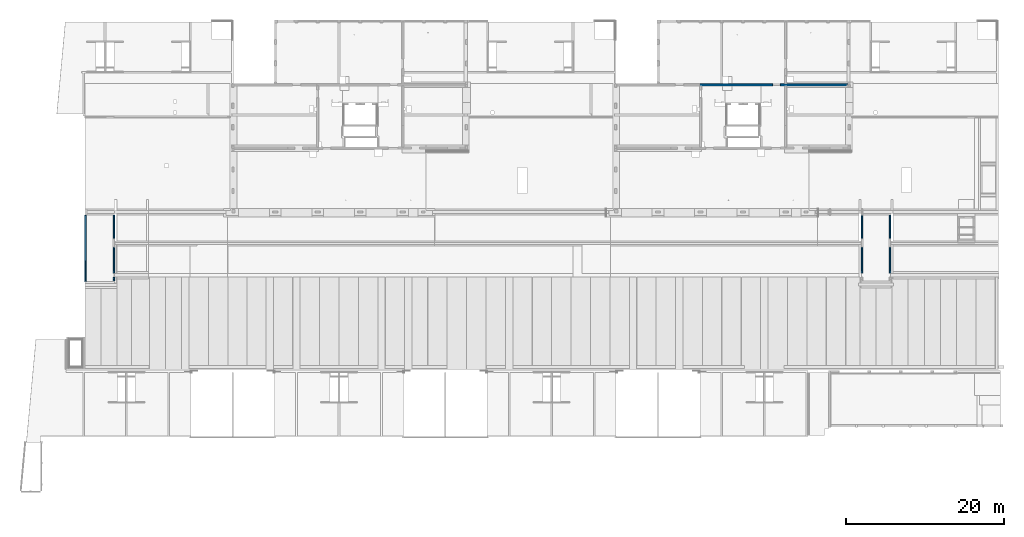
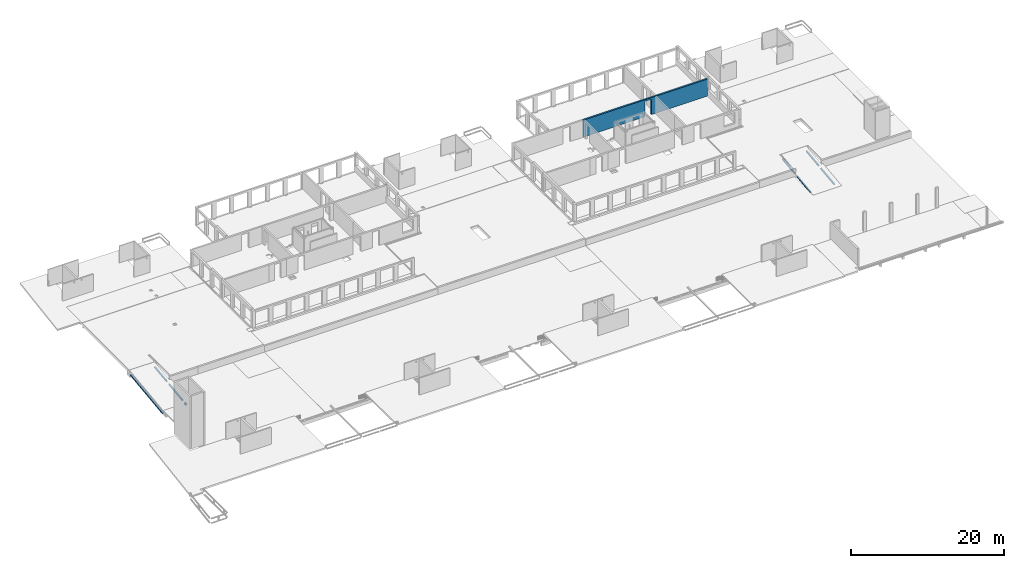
# One storey, part 35 of 36: 9 walls.
"""IFC2X3 building model written with IfcOpenShell, lengths in millimetres."""

from ifc_helpers import new_model, entity, si_unit, converted_unit, derived_unit, direction, frame, origin, place, context, subcontext, project, spatial, faceted_brep, material, layer, layer_set, type_object, element, save


model = new_model("IFC2X3")

# Units and contexts
model_context = context("Model", 3, precision=0.01, world=origin(), true_north=direction((6.12303176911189e-17, 1.0)))
body_context = subcontext(model_context, "Body", "Model", "MODEL_VIEW")
ifc_project = project(units=[si_unit("LENGTHUNIT", "METRE", prefix="MILLI"), si_unit("AREAUNIT", "SQUARE_METRE"), si_unit("VOLUMEUNIT", "CUBIC_METRE"), converted_unit("PLANEANGLEUNIT", "DEGREE", entity("IfcRatioMeasure", 0.0174532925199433), si_unit("PLANEANGLEUNIT", "RADIAN"), dimensions=[0, 0, 0, 0, 0, 0, 0]), si_unit("MASSUNIT", "GRAM", prefix="KILO"), derived_unit("MASSDENSITYUNIT", [(si_unit("MASSUNIT", "GRAM", prefix="KILO"), 1), (si_unit("LENGTHUNIT", "METRE"), -3)]), si_unit("TIMEUNIT", "SECOND"), si_unit("FREQUENCYUNIT", "HERTZ"), si_unit("THERMODYNAMICTEMPERATUREUNIT", "DEGREE_CELSIUS"), derived_unit("THERMALTRANSMITTANCEUNIT", [(si_unit("MASSUNIT", "GRAM", prefix="KILO"), 1), (si_unit("THERMODYNAMICTEMPERATUREUNIT", "KELVIN"), -1), (si_unit("TIMEUNIT", "SECOND"), -3)]), derived_unit("VOLUMETRICFLOWRATEUNIT", [(si_unit("LENGTHUNIT", "METRE"), 3), (si_unit("TIMEUNIT", "SECOND"), -1)]), si_unit("ELECTRICCURRENTUNIT", "AMPERE"), si_unit("ELECTRICVOLTAGEUNIT", "VOLT"), si_unit("POWERUNIT", "WATT"), si_unit("FORCEUNIT", "NEWTON", prefix="KILO"), si_unit("ILLUMINANCEUNIT", "LUX"), si_unit("LUMINOUSFLUXUNIT", "LUMEN"), si_unit("LUMINOUSINTENSITYUNIT", "CANDELA"), derived_unit("USERDEFINED", [(si_unit("MASSUNIT", "GRAM", prefix="KILO"), -1), (si_unit("LENGTHUNIT", "METRE"), -2), (si_unit("TIMEUNIT", "SECOND"), 3), (si_unit("LUMINOUSFLUXUNIT", "LUMEN"), 1)]), derived_unit("LINEARVELOCITYUNIT", [(si_unit("LENGTHUNIT", "METRE"), 1), (si_unit("TIMEUNIT", "SECOND"), -1)]), si_unit("PRESSUREUNIT", "PASCAL"), derived_unit("USERDEFINED", [(si_unit("LENGTHUNIT", "METRE"), -2), (si_unit("MASSUNIT", "GRAM", prefix="KILO"), 1), (si_unit("TIMEUNIT", "SECOND"), -2)])], contexts=[model_context])

# Site, building, storey
site_placement = place(None, origin())
site = spatial("IfcSite", under=ifc_project, at=site_placement, Name="Default", CompositionType="ELEMENT")
building_placement = place(site_placement, origin())
building = spatial("IfcBuilding", under=site, at=building_placement, Name="niet gebruiken", CompositionType="ELEMENT")
storey_placement = place(building_placement, frame((0.0, 0.0, 12600.0)))
storey = spatial("IfcBuildingStorey", under=building, at=storey_placement, Name="04 vierde verdieping", CompositionType="ELEMENT", Elevation=12600.0)

# Walls
ifc_material_1 = material(Name="NLRS_f2_beton ihwg")
ifc_layer = layer(ifc_material_1, 250.0)
ifc_layer_set = layer_set([ifc_layer], Name="Basic Wall:NLRS_22.21_WA_beton ihwg d=250_gen")
wall_type_1 = type_object("IfcWallType", Name="Basic Wall:NLRS_22.21_WA_beton ihwg d=250_gen", PredefinedType="STANDARD", material=ifc_layer_set)
wall_1_placement = place(storey_placement, frame((86275.0, 45031.0, -90.0)))
element("IfcWall", 1, at=wall_1_placement, inside=storey, type_object=wall_type_1, Name="Basic Wall:NLRS_22.21_WA_beton ihwg d=250_gen", ObjectType="Basic Wall:NLRS_22.21_WA_beton ihwg d=250_gen", context=body_context, shape_type="Brep", body=[
    faceted_brep([(18715.0, -125.0, 0.0), (18715.0, -125.0, 1000.0), (18695.0, -125.0, 1000.0), (18695.0, -125.0, 2720.0), (11050.0, -125.0, 2720.0), (10800.0, -125.0, 2720.0), (250.0, -125.0, 2720.0), (0.0, -125.0, 2720.0), (0.0, -125.0, 0.0), (250.0, -125.0, 0.0), (9270.0, -125.0, 0.0), (9270.0, -125.0, 2470.0), (10276.0, -125.0, 2470.0), (10276.0, -125.0, 0.0), (10800.0, -125.0, 0.0), (11050.0, -125.0, 0.0), (0.0, 125.0, 2720.0), (10800.0, 125.0, 2720.0), (11050.0, 125.0, 2720.0), (18835.0, 125.0, 2720.0), (18835.0, 125.0, 1000.0), (18715.0, 125.0, 1000.0), (18715.0, 125.0, 0.0), (11050.0, 125.0, 0.0), (10800.0, 125.0, 0.0), (10276.0, 125.0, 0.0), (10276.0, 125.0, 2470.0), (9270.0, 125.0, 2470.0), (9270.0, 125.0, 0.0), (0.0, 125.0, 0.0), (18695.0, 15.0, 2720.0), (18835.0, 15.0, 2720.0), (18835.0, 15.0, 1000.0), (18715.0, 15.0, 1000.0), (18695.0, 15.0, 1000.0)], [[[0, 1, 2, 3, 4, 5, 6, 7, 8, 9, 10, 11, 12, 13, 14, 15]], [[16, 17, 18, 19, 20, 21, 22, 23, 24, 25, 26, 27, 28, 29]], [[19, 18, 17, 16, 7, 6, 5, 4, 3, 30, 31]], [[21, 20, 32, 33]], [[1, 0, 22, 21, 33]], [[20, 19, 31, 32]], [[8, 7, 16, 29]], [[22, 0, 15, 14, 13, 25, 24, 23]], [[27, 11, 10, 28]], [[11, 27, 26, 12]], [[12, 26, 25, 13]], [[30, 34, 33, 32, 31]], [[34, 2, 1, 33]], [[34, 30, 3, 2]], [[8, 29, 28, 10, 9]]]),
])
ifc_material_2 = material(Name="NLRS_f2_beton prefab")
wall_type_2 = type_object("IfcWallType", Name="NLRS_21.21_SF_WPB_oplegnok prefabbeton_gen:200x250", PredefinedType="NOTDEFINED", material=ifc_material_2)
wall_2_placement = place(storey_placement, frame((8225.0, 20034.3421471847, -1993.42697908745), z_axis=(0.0, 0.0, 1.0), x_axis=(0.0, 1.0, 0.0)))
element("IfcWall", 2, at=wall_2_placement, inside=storey, type_object=wall_type_2, material=ifc_material_2, Name="NLRS_21.21_SF_WPB_oplegnok prefabbeton_gen:200x250", ObjectType="NLRS_21.21_SF_WPB_oplegnok prefabbeton_gen:200x250", context=body_context, shape_type="Brep", body=[
    faceted_brep([(0.0, 0.0, 248.076211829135), (30.9546947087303, 0.0, 0.0), (30.9546947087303, -20.0, 0.0), (3.07570592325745, -20.0, 223.426979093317), (3.07570592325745, -200.0, 223.426979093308), (0.0, -200.0, 248.076211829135), (8409.78358100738, 0.0, 1297.44036245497), (8409.78358100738, -200.0, 1297.44036245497), (8440.7382757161, -200.0, 1049.36415062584), (8440.73827571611, 0.0, 1049.36415062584), (41.6578528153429, -200.0, 223.426979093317), (41.6578528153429, -200.0, 1.33552906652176), (41.6578528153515, -20.0, 1.33552906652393), (41.6578528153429, -20.0, 223.426979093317)], [[[0, 1, 2, 3, 4, 5]], [[6, 7, 8, 9]], [[1, 0, 6, 9]], [[8, 7, 5, 4, 10, 11]], [[0, 5, 7, 6]], [[9, 8, 11, 12, 2, 1]], [[12, 13, 3, 2]], [[3, 13, 10, 4]], [[13, 12, 11, 10]]]),
])
wall_type_3 = type_object("IfcWallType", Name="NLRS_21.21_SF_WPB_oplegnok prefabbeton_gen:200x200", PredefinedType="NOTDEFINED", material=ifc_material_2)
wall_3_placement = place(storey_placement, frame((11825.0, 20156.3042567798, -1928.65544605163), z_axis=(0.0, 0.0, 1.0), x_axis=(0.0, 1.0, 0.0)))
element("IfcWall", 3, at=wall_3_placement, inside=storey, type_object=wall_type_3, material=ifc_material_2, Name="NLRS_21.21_SF_WPB_oplegnok prefabbeton_gen:200x200", ObjectType="NLRS_21.21_SF_WPB_oplegnok prefabbeton_gen:200x200", context=body_context, shape_type="Brep", body=[
    faceted_brep([(24.7653820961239, -200.0, 0.0), (0.0, -200.0, 198.460766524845), (0.0, 0.0, 198.460766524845), (24.7653820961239, 0.0, 0.0), (437.867037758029, -200.0, 51.5498379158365), (437.867037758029, 0.0, 51.5498379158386), (415.578081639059, 0.0, 230.165427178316), (415.578081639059, -200.0, 230.165427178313), (147.656159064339, -200.0, 196.731261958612), (145.17962085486, -200.0, 216.577338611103), (145.179620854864, 0.0, 216.577338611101), (147.656159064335, 0.0, 196.73126195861)], [[[0, 1, 2, 3]], [[4, 5, 6, 7]], [[1, 0, 4, 7, 8, 9]], [[3, 2, 10, 11, 6, 5]], [[2, 1, 9, 10]], [[0, 3, 5, 4]], [[8, 11, 10, 9]], [[11, 8, 7, 6]]]),
])
wall_4_placement = place(storey_placement, frame((11825.0, 25245.8062954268, -1293.55025688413), z_axis=(0.0, 0.0, 1.0), x_axis=(0.0, 1.0, 0.0)))
element("IfcWall", 4, at=wall_4_placement, inside=storey, type_object=wall_type_3, material=ifc_material_2, Name="NLRS_21.21_SF_WPB_oplegnok prefabbeton_gen:200x200", ObjectType="NLRS_21.21_SF_WPB_oplegnok prefabbeton_gen:200x200", context=body_context, shape_type="Brep", body=[
    faceted_brep([(24.7653820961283, 0.0, 0.0), (24.7653820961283, -200.0, 0.0), (2.4766153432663, -200.0, 178.614071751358), (2.4766153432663, 0.0, 178.614071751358), (3173.5099906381, 0.0, 594.474491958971), (3173.5099906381, -200.0, 594.474491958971), (3198.27537273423, -200.0, 396.013725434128), (3198.27537273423, 0.0, 396.01372543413), (267.921564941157, -200.0, 231.893973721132), (270.398032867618, -200.0, 212.049002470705), (270.398032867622, 0.0, 212.049002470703), (267.921564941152, 0.0, 231.893973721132)], [[[0, 1, 2, 3]], [[4, 5, 6, 7]], [[1, 6, 5, 8, 9, 2]], [[4, 7, 0, 3, 10, 11]], [[5, 4, 11, 8]], [[1, 0, 7, 6]], [[10, 9, 8, 11]], [[9, 10, 3, 2]]]),
])
wall_5_placement = place(storey_placement, frame((11825.0, 21110.7966762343, -1809.54691951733), z_axis=(0.0, 0.0, 1.0), x_axis=(0.0, 1.0, 0.0)))
element("IfcWall", 5, at=wall_5_placement, inside=storey, type_object=wall_type_3, material=ifc_material_2, Name="NLRS_21.21_SF_WPB_oplegnok prefabbeton_gen:200x200", ObjectType="NLRS_21.21_SF_WPB_oplegnok prefabbeton_gen:200x200", context=body_context, shape_type="Brep", body=[
    faceted_brep([(24.7653820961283, 0.0, 0.0), (24.7653820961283, -200.0, 0.0), (2.47653820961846, -200.0, 178.614689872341), (2.47653820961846, 0.0, 178.614689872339), (3589.19667531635, -200.0, 444.795737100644), (3589.19667531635, 0.0, 444.795737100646), (3566.90783142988, 0.0, 623.410426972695), (3566.90783142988, -200.0, 623.410426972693), (3298.98619941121, -200.0, 589.977211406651), (3296.50959458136, -200.0, 609.823279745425), (267.921826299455, -200.0, 231.894006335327), (270.398339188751, -200.0, 212.04843356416), (270.398339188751, 0.0, 212.04843356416), (267.921826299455, 0.0, 231.894006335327), (3296.50959458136, 0.0, 609.823279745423), (3298.9861994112, 0.0, 589.977211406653)], [[[0, 1, 2, 3]], [[4, 5, 6, 7]], [[1, 4, 7, 8, 9, 10, 11, 2]], [[5, 0, 3, 12, 13, 14, 15, 6]], [[9, 14, 13, 10]], [[1, 0, 5, 4]], [[8, 15, 14, 9]], [[15, 8, 7, 6]], [[11, 12, 3, 2]], [[12, 11, 10, 13]]]),
])
wall_6_placement = place(storey_placement, frame((110375.0, 21110.7966762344, -1809.54691951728), z_axis=(0.0, 0.0, 1.0), x_axis=(0.0, 1.0, 0.0)))
element("IfcWall", 6, at=wall_6_placement, inside=storey, type_object=wall_type_3, material=ifc_material_2, Name="NLRS_21.21_SF_WPB_oplegnok prefabbeton_gen:200x200", ObjectType="NLRS_21.21_SF_WPB_oplegnok prefabbeton_gen:200x200", context=body_context, shape_type="Brep", body=[
    faceted_brep([(24.7653820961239, 0.0, 0.0), (24.7653820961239, -200.0, 0.0), (2.47653820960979, -200.0, 178.614689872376), (2.47653820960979, 0.0, 178.614689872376), (3589.19667531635, -200.0, 444.795737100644), (3589.19667531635, 0.0, 444.795737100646), (3566.90783142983, 0.0, 623.410426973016), (3566.90783142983, -200.0, 623.410426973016), (3298.98579662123, -200.0, 589.97716114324), (3296.50925841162, -200.0, 609.823237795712), (267.922034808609, -200.0, 231.89403235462), (270.398573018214, -200.0, 212.047955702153), (270.398573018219, 0.0, 212.047955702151), (267.922034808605, 0.0, 231.894032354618), (3296.50925841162, 0.0, 609.823237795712), (3298.98579662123, 0.0, 589.977161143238)], [[[0, 1, 2, 3]], [[4, 5, 6, 7]], [[1, 4, 7, 8, 9, 10, 11, 2]], [[5, 0, 3, 12, 13, 14, 15, 6]], [[9, 14, 13, 10]], [[1, 0, 5, 4]], [[8, 15, 14, 9]], [[15, 8, 7, 6]], [[12, 11, 10, 13]], [[11, 12, 3, 2]]]),
])
wall_7_placement = place(storey_placement, frame((110375.0, 25245.8062954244, -1293.55025688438), z_axis=(0.0, 0.0, 1.0), x_axis=(0.0, 1.0, 0.0)))
element("IfcWall", 7, at=wall_7_placement, inside=storey, type_object=wall_type_3, material=ifc_material_2, Name="NLRS_21.21_SF_WPB_oplegnok prefabbeton_gen:200x200", ObjectType="NLRS_21.21_SF_WPB_oplegnok prefabbeton_gen:200x200", context=body_context, shape_type="Brep", body=[
    faceted_brep([(24.7653820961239, 0.0, 0.0), (24.7653820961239, -200.0, 0.0), (2.47653820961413, -200.0, 178.614689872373), (2.47653820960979, 0.0, 178.614689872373), (3173.5099906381, 0.0, 594.474491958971), (3173.5099906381, -200.0, 594.474491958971), (3198.27537273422, -200.0, 396.013725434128), (3198.27537273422, 0.0, 396.01372543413), (267.922034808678, -200.0, 231.894032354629), (270.398460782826, -200.0, 212.048855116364), (270.398460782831, 0.0, 212.048855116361), (267.922034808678, 0.0, 231.894032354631)], [[[0, 1, 2, 3]], [[4, 5, 6, 7]], [[1, 6, 5, 8, 9, 2]], [[4, 7, 0, 3, 10, 11]], [[5, 4, 11, 8]], [[1, 0, 7, 6]], [[9, 10, 3, 2]], [[10, 9, 8, 11]]]),
])
wall_8_placement = place(storey_placement, frame((106775.0, 21110.7966762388, -1809.54691951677), z_axis=(0.0, 0.0, 1.0), x_axis=(0.0, 1.0, 0.0)))
element("IfcWall", 8, at=wall_8_placement, inside=storey, type_object=wall_type_3, material=ifc_material_2, Name="NLRS_21.21_SF_WPB_oplegnok prefabbeton_gen:200x200", ObjectType="NLRS_21.21_SF_WPB_oplegnok prefabbeton_gen:200x200", context=body_context, shape_type="Brep", body=[
    faceted_brep([(24.7653820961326, 0.0, 0.0), (24.7653820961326, -200.0, 0.0), (2.47653820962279, -200.0, 178.614689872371), (2.47653820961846, 0.0, 178.614689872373), (3589.19667531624, -200.0, 444.795737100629), (3589.19667531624, 0.0, 444.795737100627), (3566.90783142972, 0.0, 623.410426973), (3566.90783142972, -200.0, 623.410426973), (270.398573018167, 0.0, 212.047955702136), (267.922034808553, 0.0, 231.894032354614), (3296.50925841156, 0.0, 609.823237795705), (3298.98579662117, 0.0, 589.977161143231), (3298.98579662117, -200.0, 589.977161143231), (3296.50925841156, -200.0, 609.823237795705), (267.922034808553, -200.0, 231.894032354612), (270.398573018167, -200.0, 212.047955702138)], [[[0, 1, 2, 3]], [[4, 5, 6, 7]], [[5, 0, 3, 8, 9, 10, 11, 6]], [[1, 4, 7, 12, 13, 14, 15, 2]], [[9, 14, 13, 10]], [[1, 0, 5, 4]], [[8, 15, 14, 9]], [[15, 8, 3, 2]], [[12, 11, 10, 13]], [[11, 12, 7, 6]]]),
])
wall_9_placement = place(storey_placement, frame((106775.0, 25245.8062954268, -1293.55025688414), z_axis=(0.0, 0.0, 1.0), x_axis=(0.0, 1.0, 0.0)))
element("IfcWall", 9, at=wall_9_placement, inside=storey, type_object=wall_type_3, material=ifc_material_2, Name="NLRS_21.21_SF_WPB_oplegnok prefabbeton_gen:200x200", ObjectType="NLRS_21.21_SF_WPB_oplegnok prefabbeton_gen:200x200", context=body_context, shape_type="Brep", body=[
    faceted_brep([(24.7653820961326, 0.0, 0.0), (24.7653820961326, -200.0, 0.0), (2.47653820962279, -200.0, 178.614689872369), (2.47653820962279, 0.0, 178.614689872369), (3173.50999063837, 0.0, 594.474491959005), (3173.50999063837, -200.0, 594.474491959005), (3198.27537273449, -200.0, 396.013725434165), (3198.27537273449, 0.0, 396.013725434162), (270.398573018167, 0.0, 212.047955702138), (267.922034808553, 0.0, 231.894032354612), (267.922034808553, -200.0, 231.894032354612), (270.398573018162, -200.0, 212.047955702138)], [[[0, 1, 2, 3]], [[4, 5, 6, 7]], [[7, 0, 3, 8, 9, 4]], [[6, 5, 10, 11, 2, 1]], [[5, 4, 9, 10]], [[1, 0, 7, 6]], [[8, 11, 10, 9]], [[11, 8, 3, 2]]]),
])

save(model, "model.ifc")
